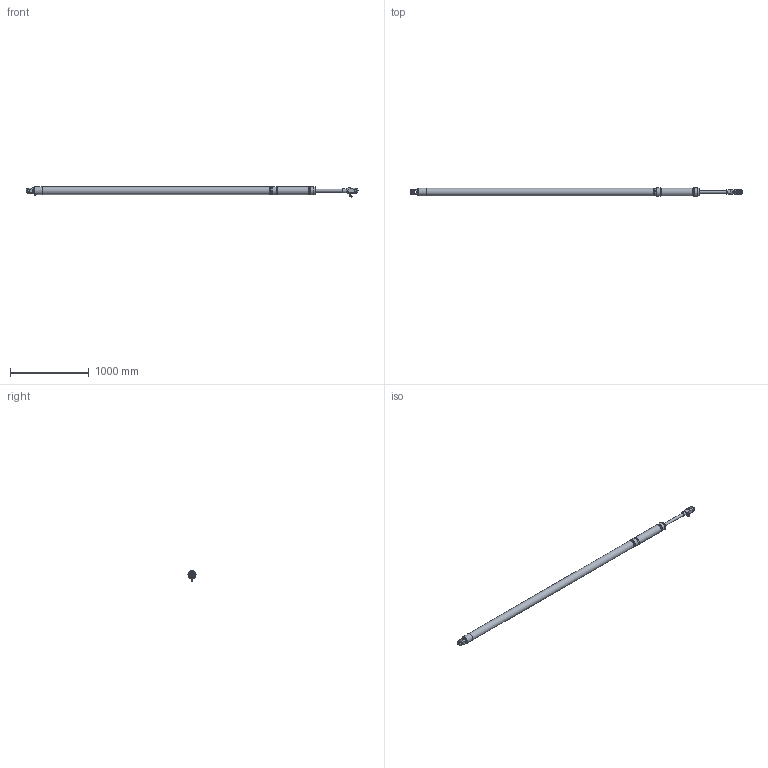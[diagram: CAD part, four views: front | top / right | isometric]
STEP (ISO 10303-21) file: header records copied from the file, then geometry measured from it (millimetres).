
FILE_DESCRIPTION(/* description */ (''),/* implementation_level */ '2;1');
FILE_NAME(/* name */ 'Q:\AA BRAND HYDRAULICS\HYDRAULICS FAMILY DIRECTORY\HYDRAULICS\CYLINDERS\VANGS\ALUMINIUM SINGLE ACTING - STAINLESS ON REQUEST (-0010 To -0150)\VSA-0040-S350-NP-71-L3800\VSA-0040-S350-NP-71-L3800 (Open).stp',/* time_stamp */ '2018-03-28T12:05:40+01:00',/* author */ ('Lorena'),/* organization */ (''),/* preprocessor_version */ 'ST-DEVELOPER v17',/* originating_system */ 'Autodesk Inventor 2018',/* authorisation */ '');
FILE_SCHEMA (('AUTOMOTIVE_DESIGN { 1 0 10303 214 3 1 1 }'));
Length unit declared in the file: millimetre
Products named in the file (1): VSA-0040-S350-NP-71-L3800 (Open)
Bounding box: 4210.96 x 102.2 x 134.56 mm (x, y, z)
Volume: 27702435.8 mm3; surface area: 1234535.7 mm2
Topology: 2 solids, 7 shells, 1728 faces, 4611 edges, 3046 vertices
Faces by surface type: plane 984, bspline 578, cylinder 94, cone 64, sphere 4, torus 4
Full cylindrical faces by diameter (mm): 5 x5, 5.1 x1, 5.9 x1, 6 x2, 6.5 x2, 8 x2, 9 x2, 11 x1, 11.157 x1, 11.5 x1, 11.8 x1, 12 x2, 12.157 x1, 12.77 x1, 13 x1, 13.157 x2, 14.5 x2, 15 x1, 16 x2, 18.3 x3, 22 x1, 22.23 x2, 27 x1, 27.75 x2, 35 x1, 37 x1, 51 x1, 84 x2, 87 x1, 97 x2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
Entity records: 62711 total; most frequent: CARTESIAN_POINT 21637, ORIENTED_EDGE 9206, DIRECTION 6056, EDGE_CURVE 4603, VERTEX_POINT 3047, LINE 2956, VECTOR 2956, EDGE_LOOP 1904
